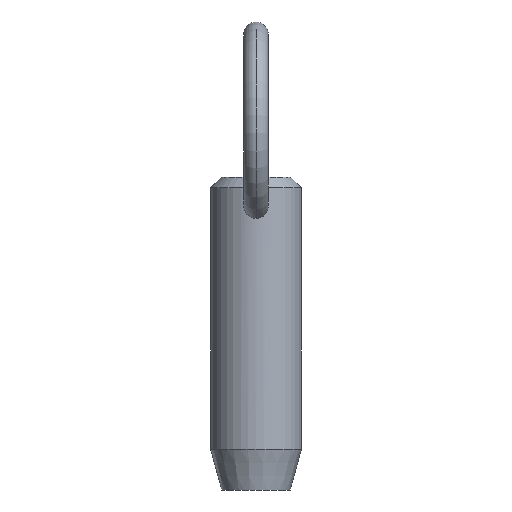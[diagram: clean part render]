
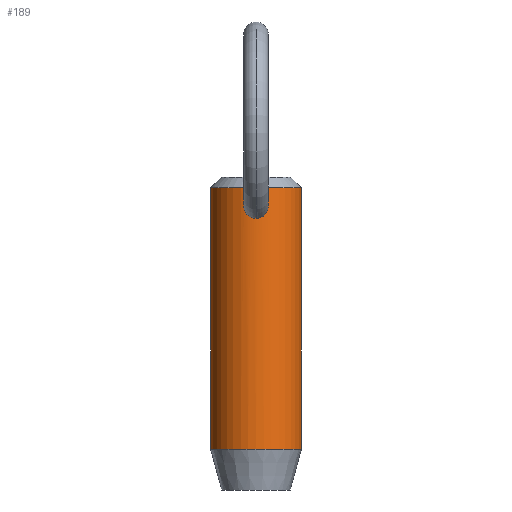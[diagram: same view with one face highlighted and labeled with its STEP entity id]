
A CAD part, front view. The second image highlights one B-rep face of the part: STEP entity #189.
In plain terms, the highlighted cylindrical face has radius 5.55 mm (diameter 11.1 mm), a partial arc.
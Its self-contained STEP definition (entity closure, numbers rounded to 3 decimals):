
#1 = CARTESIAN_POINT ( 'NONE',  ( 1.477, -5.35, 20.344 ) ) ;
#7 = CARTESIAN_POINT ( 'NONE',  ( 0., -5.55, 19.077 ) ) ;
#11 = CARTESIAN_POINT ( 'NONE',  ( -5.55, 0., 17.8 ) ) ;
#20 = CARTESIAN_POINT ( 'NONE',  ( -5.55, 0., -9.2 ) ) ;
#23 = FACE_OUTER_BOUND ( 'NONE', #54, .T. ) ;
#25 = VERTEX_POINT ( 'NONE', #398 ) ;
#30 = CARTESIAN_POINT ( 'NONE',  ( -1.195, -5.421, 21.771 ) ) ;
#38 = CARTESIAN_POINT ( 'NONE',  ( 0.421, -5.535, 19.132 ) ) ;
#42 = CYLINDRICAL_SURFACE ( 'NONE', #48, 5.55 ) ;
#43 = CARTESIAN_POINT ( 'NONE',  ( 0., 0., 17.8 ) ) ;
#46 = DIRECTION ( 'NONE',  ( 1., 0., 0. ) ) ;
#48 = AXIS2_PLACEMENT_3D ( 'NONE', #43, #374, #523 ) ;
#52 = CARTESIAN_POINT ( 'NONE',  ( 5.55, 0., -9.2 ) ) ;
#53 = ORIENTED_EDGE ( 'NONE', *, *, #135, .T. ) ;
#54 = EDGE_LOOP ( 'NONE', ( #198, #125, #393, #365 ) ) ;
#57 = B_SPLINE_CURVE_WITH_KNOTS ( 'NONE', 3,
 ( #321, #64, #353, #434, #275, #316, #435, #187, #156, #158, #77, #362, #409, #355, #231, #436, #280, #111, #30, #513, #357, #106, #149, #247, #200, #411 ),
 .UNSPECIFIED., .F., .F.,
 ( 4, 2, 2, 2, 2, 2, 2, 2, 2, 2, 2, 2, 4 ),
 ( 0.01, 0.01, 0.01, 0.011, 0.011, 0.012, 0.012, 0.012, 0.013, 0.013, 0.014, 0.014, 0.015 ),
 .UNSPECIFIED. ) ;
#60 = ORIENTED_EDGE ( 'NONE', *, *, #184, .T. ) ;
#64 = CARTESIAN_POINT ( 'NONE',  ( -0.107, -5.55, 19.077 ) ) ;
#77 = CARTESIAN_POINT ( 'NONE',  ( -1.362, -5.381, 19.932 ) ) ;
#81 = CARTESIAN_POINT ( 'NONE',  ( 1.44, -5.36, 21.186 ) ) ;
#83 = CARTESIAN_POINT ( 'NONE',  ( 5.55, 0., 22.85 ) ) ;
#90 = B_SPLINE_CURVE_WITH_KNOTS ( 'NONE', 3,
 ( #511, #524, #270, #351, #468, #229, #430, #488, #251, #81, #292, #413, #410, #1, #255, #484, #330, #370, #127, #207, #245, #121, #38, #123, #299, #7 ),
 .UNSPECIFIED., .F., .F.,
 ( 4, 2, 2, 2, 2, 2, 2, 2, 2, 2, 2, 2, 4 ),
 ( 0.005, 0.005, 0.005, 0.006, 0.006, 0.007, 0.007, 0.008, 0.008, 0.009, 0.009, 0.009, 0.01 ),
 .UNSPECIFIED. ) ;
#94 = VECTOR ( 'NONE', #497, 1000. ) ;
#106 = CARTESIAN_POINT ( 'NONE',  ( -0.513, -5.527, 22.423 ) ) ;
#111 = CARTESIAN_POINT ( 'NONE',  ( -1.294, -5.398, 21.586 ) ) ;
#121 = CARTESIAN_POINT ( 'NONE',  ( 0.523, -5.526, 19.166 ) ) ;
#123 = CARTESIAN_POINT ( 'NONE',  ( 0.213, -5.547, 19.088 ) ) ;
#125 = ORIENTED_EDGE ( 'NONE', *, *, #244, .T. ) ;
#126 = CARTESIAN_POINT ( 'NONE',  ( 0., 0., -9.2 ) ) ;
#127 = CARTESIAN_POINT ( 'NONE',  ( 0.977, -5.464, 19.432 ) ) ;
#135 = EDGE_CURVE ( 'NONE', #426, #186, #57, .T. ) ;
#142 = AXIS2_PLACEMENT_3D ( 'NONE', #126, #258, #458 ) ;
#149 = CARTESIAN_POINT ( 'NONE',  ( -0.416, -5.535, 22.467 ) ) ;
#156 = CARTESIAN_POINT ( 'NONE',  ( -1.054, -5.449, 19.504 ) ) ;
#158 = CARTESIAN_POINT ( 'NONE',  ( -1.26, -5.407, 19.742 ) ) ;
#161 = DIRECTION ( 'NONE',  ( 0., 0., -1. ) ) ;
#182 = EDGE_LOOP ( 'NONE', ( #60, #53 ) ) ;
#184 = EDGE_CURVE ( 'NONE', #186, #426, #90, .T. ) ;
#186 = VERTEX_POINT ( 'NONE', #369 ) ;
#187 = CARTESIAN_POINT ( 'NONE',  ( -0.976, -5.464, 19.431 ) ) ;
#189 = ADVANCED_FACE ( 'NONE', ( #23, #450 ), #42, .T. ) ;
#193 = VECTOR ( 'NONE', #492, 1000. ) ;
#194 = CARTESIAN_POINT ( 'NONE',  ( 0., -5.55, 19.077 ) ) ;
#198 = ORIENTED_EDGE ( 'NONE', *, *, #463, .F. ) ;
#200 = CARTESIAN_POINT ( 'NONE',  ( -0.106, -5.55, 22.545 ) ) ;
#207 = CARTESIAN_POINT ( 'NONE',  ( 0.807, -5.492, 19.306 ) ) ;
#215 = CARTESIAN_POINT ( 'NONE',  ( 5.55, 0., 17.8 ) ) ;
#229 = CARTESIAN_POINT ( 'NONE',  ( 0.786, -5.497, 22.257 ) ) ;
#231 = CARTESIAN_POINT ( 'NONE',  ( -1.503, -5.343, 20.659 ) ) ;
#234 = CIRCLE ( 'NONE', #406, 5.55 ) ;
#244 = EDGE_CURVE ( 'NONE', #446, #25, #234, .T. ) ;
#245 = CARTESIAN_POINT ( 'NONE',  ( 0.716, -5.504, 19.252 ) ) ;
#247 = CARTESIAN_POINT ( 'NONE',  ( -0.211, -5.547, 22.529 ) ) ;
#251 = CARTESIAN_POINT ( 'NONE',  ( 1.295, -5.397, 21.582 ) ) ;
#255 = CARTESIAN_POINT ( 'NONE',  ( 1.455, -5.356, 20.238 ) ) ;
#258 = DIRECTION ( 'NONE',  ( 0., 0., 1. ) ) ;
#270 = CARTESIAN_POINT ( 'NONE',  ( 0.214, -5.547, 22.528 ) ) ;
#275 = CARTESIAN_POINT ( 'NONE',  ( -0.523, -5.526, 19.166 ) ) ;
#276 = LINE ( 'NONE', #11, #94 ) ;
#280 = CARTESIAN_POINT ( 'NONE',  ( -1.44, -5.36, 21.187 ) ) ;
#292 = CARTESIAN_POINT ( 'NONE',  ( 1.486, -5.347, 20.974 ) ) ;
#299 = CARTESIAN_POINT ( 'NONE',  ( 0.107, -5.55, 19.077 ) ) ;
#316 = CARTESIAN_POINT ( 'NONE',  ( -0.716, -5.504, 19.252 ) ) ;
#321 = CARTESIAN_POINT ( 'NONE',  ( 0., -5.55, 19.077 ) ) ;
#330 = CARTESIAN_POINT ( 'NONE',  ( 1.26, -5.407, 19.743 ) ) ;
#351 = CARTESIAN_POINT ( 'NONE',  ( 0.417, -5.535, 22.467 ) ) ;
#353 = CARTESIAN_POINT ( 'NONE',  ( -0.212, -5.547, 19.088 ) ) ;
#355 = CARTESIAN_POINT ( 'NONE',  ( -1.5, -5.343, 20.553 ) ) ;
#357 = CARTESIAN_POINT ( 'NONE',  ( -0.785, -5.497, 22.258 ) ) ;
#362 = CARTESIAN_POINT ( 'NONE',  ( -1.455, -5.356, 20.236 ) ) ;
#365 = ORIENTED_EDGE ( 'NONE', *, *, #456, .T. ) ;
#369 = CARTESIAN_POINT ( 'NONE',  ( 0., -5.55, 22.545 ) ) ;
#370 = CARTESIAN_POINT ( 'NONE',  ( 1.055, -5.449, 19.505 ) ) ;
#374 = DIRECTION ( 'NONE',  ( 0., 0., -1. ) ) ;
#390 = EDGE_CURVE ( 'NONE', #25, #470, #276, .T. ) ;
#393 = ORIENTED_EDGE ( 'NONE', *, *, #390, .T. ) ;
#398 = CARTESIAN_POINT ( 'NONE',  ( -5.55, 0., 22.85 ) ) ;
#401 = VERTEX_POINT ( 'NONE', #52 ) ;
#406 = AXIS2_PLACEMENT_3D ( 'NONE', #491, #161, #46 ) ;
#409 = CARTESIAN_POINT ( 'NONE',  ( -1.477, -5.35, 20.342 ) ) ;
#410 = CARTESIAN_POINT ( 'NONE',  ( 1.5, -5.343, 20.554 ) ) ;
#411 = CARTESIAN_POINT ( 'NONE',  ( 0., -5.55, 22.545 ) ) ;
#413 = CARTESIAN_POINT ( 'NONE',  ( 1.503, -5.343, 20.659 ) ) ;
#415 = LINE ( 'NONE', #215, #193 ) ;
#420 = CIRCLE ( 'NONE', #142, 5.55 ) ;
#426 = VERTEX_POINT ( 'NONE', #194 ) ;
#430 = CARTESIAN_POINT ( 'NONE',  ( 0.941, -5.471, 22.107 ) ) ;
#434 = CARTESIAN_POINT ( 'NONE',  ( -0.42, -5.535, 19.132 ) ) ;
#435 = CARTESIAN_POINT ( 'NONE',  ( -0.807, -5.492, 19.305 ) ) ;
#436 = CARTESIAN_POINT ( 'NONE',  ( -1.485, -5.348, 20.979 ) ) ;
#446 = VERTEX_POINT ( 'NONE', #83 ) ;
#450 = FACE_BOUND ( 'NONE', #182, .T. ) ;
#456 = EDGE_CURVE ( 'NONE', #470, #401, #420, .T. ) ;
#458 = DIRECTION ( 'NONE',  ( -1., 0., 0. ) ) ;
#463 = EDGE_CURVE ( 'NONE', #446, #401, #415, .T. ) ;
#468 = CARTESIAN_POINT ( 'NONE',  ( 0.515, -5.527, 22.422 ) ) ;
#470 = VERTEX_POINT ( 'NONE', #20 ) ;
#484 = CARTESIAN_POINT ( 'NONE',  ( 1.363, -5.38, 19.934 ) ) ;
#488 = CARTESIAN_POINT ( 'NONE',  ( 1.194, -5.422, 21.771 ) ) ;
#491 = CARTESIAN_POINT ( 'NONE',  ( 0., 0., 22.85 ) ) ;
#492 = DIRECTION ( 'NONE',  ( 0., 0., -1. ) ) ;
#497 = DIRECTION ( 'NONE',  ( 0., 0., -1. ) ) ;
#511 = CARTESIAN_POINT ( 'NONE',  ( 0., -5.55, 22.545 ) ) ;
#513 = CARTESIAN_POINT ( 'NONE',  ( -0.939, -5.472, 22.11 ) ) ;
#523 = DIRECTION ( 'NONE',  ( -1., 0., 0. ) ) ;
#524 = CARTESIAN_POINT ( 'NONE',  ( 0.106, -5.55, 22.545 ) ) ;
